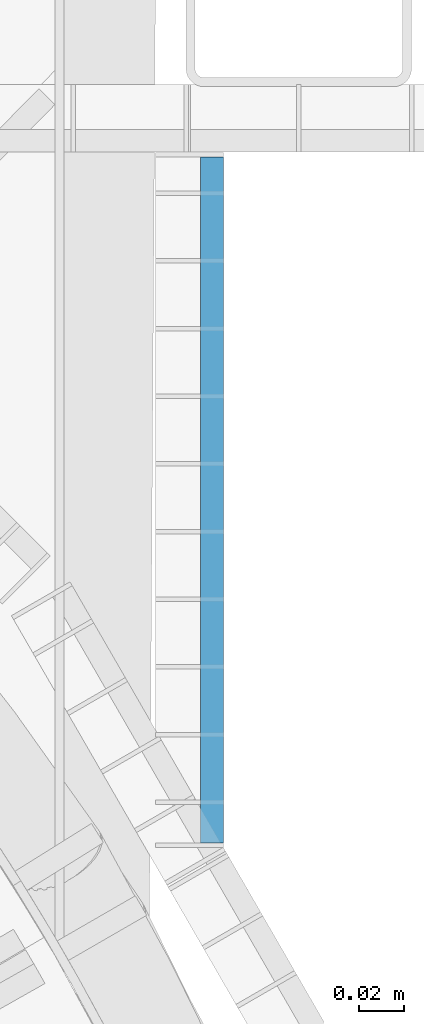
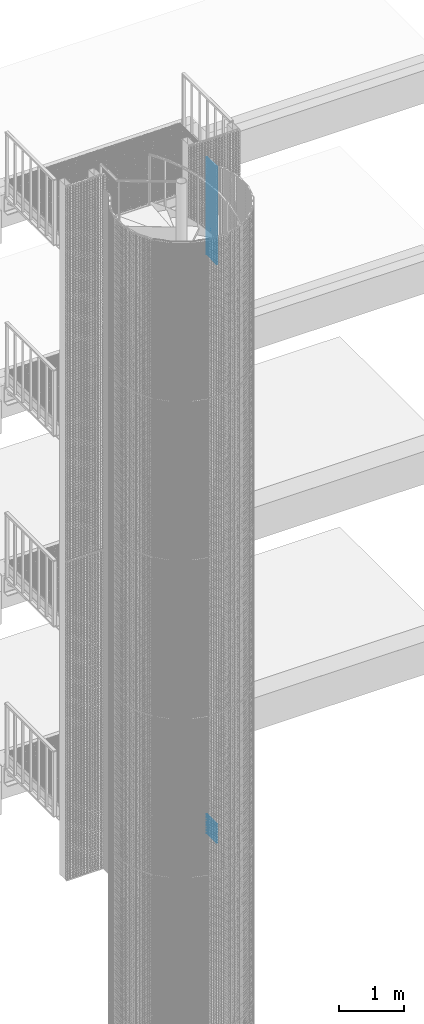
# One storey, part 261 of 1148: 70 beams, 9 elements without a shape of their own.
"""IFC2X3 building model written with IfcOpenShell, lengths in millimetres."""

import ifcopenshell
import ifcopenshell.guid

model = None  # the IFC model being written
_history = None  # IfcOwnerHistory: only IFC2X3 demands one
_inside = {}  # id of a spatial element -> (the spatial element, [elements in it])
_under = {}  # id of a project, library or spatial element -> (it, [spatial elements below it])
_declared = {}  # id of a project -> (the project, [libraries it declares])
_typed = {}  # id of a type object -> (the type object, [elements of that type])
_made_of = {}  # id of a material, layer set ... -> (it, [elements and type objects made of it])


def new_model(schema):
    """Start an empty IFC model of exactly this schema.

    Asked for "IFC4X3", IfcOpenShell would pick the latest addendum, in which some entities
    have other attributes; the version numbers below select the first issue.
    IFC2X3 requires an IfcOwnerHistory on every rooted entity: one is made here for all.
    """
    global model, _history
    if schema == "IFC4X3":
        model = ifcopenshell.file(schema_version=(4, 3, 0, 0))
    else:
        model = ifcopenshell.file(schema=schema)
    _inside.clear()
    _under.clear()
    _declared.clear()
    _typed.clear()
    _made_of.clear()
    _history = None
    if model.schema == "IFC2X3":
        org = make("IfcOrganization", Name="unknown")
        user = make(
            "IfcPersonAndOrganization",
            ThePerson=make("IfcPerson", FamilyName="unknown"),
            TheOrganization=org,
        )
        app = make(
            "IfcApplication",
            ApplicationDeveloper=org,
            Version="unknown",
            ApplicationFullName="unknown",
            ApplicationIdentifier="unknown",
        )
        _history = make(
            "IfcOwnerHistory",
            OwningUser=user,
            OwningApplication=app,
            ChangeAction="ADDED",
            CreationDate=0,
        )
    return model


def make(cls, **values):
    """One entity of the class cls with the attributes given. An attribute that is None is left unset."""
    return model.create_entity(
        cls, **{name: value for name, value in values.items() if value is not None}
    )


def rooted(cls, **values):
    """An entity with a GlobalId (a new one), such as an element, a storey or a relation."""
    return make(cls, GlobalId=ifcopenshell.guid.new(), OwnerHistory=_history, **values)


def si_unit(unit_type, name, prefix=None):
    """IfcSIUnit, for example si_unit("LENGTHUNIT", "METRE", prefix="MILLI")."""
    return make("IfcSIUnit", UnitType=unit_type, Prefix=prefix, Name=name)


def assignment(units):
    """IfcUnitAssignment: the units of a project."""
    return None if units is None else make("IfcUnitAssignment", Units=units)


def point(xyz):
    """IfcCartesianPoint."""
    return None if xyz is None else make("IfcCartesianPoint", Coordinates=xyz)


def direction(xyz):
    """IfcDirection."""
    return None if xyz is None else make("IfcDirection", DirectionRatios=xyz)


def frame(location, z_axis=None, x_axis=None):
    """IfcAxis2Placement3D, a coordinate frame: its origin and axes. An axis left out is left unset."""
    return make(
        "IfcAxis2Placement3D",
        Location=point(location),
        Axis=direction(z_axis),
        RefDirection=direction(x_axis),
    )


def frame_2d(location, x_axis=None):
    """IfcAxis2Placement2D, a coordinate frame in the plane: its origin and x axis."""
    return make(
        "IfcAxis2Placement2D", Location=point(location), RefDirection=direction(x_axis)
    )


def origin_with_axes():
    """The frame at (0, 0, 0) with the z axis (0, 0, 1) and the x axis (1, 0, 0) written out."""
    return frame((0.0, 0.0, 0.0), z_axis=(0.0, 0.0, 1.0), x_axis=(1.0, 0.0, 0.0))


def origin_2d_with_axis():
    """The frame at (0, 0) in the plane with the x axis (1, 0) written out."""
    return frame_2d((0.0, 0.0), x_axis=(1.0, 0.0))


def place(relative_to, where):
    """IfcLocalPlacement: puts the frame where relative to a parent placement (None: the world)."""
    return make(
        "IfcLocalPlacement", PlacementRelTo=relative_to, RelativePlacement=where
    )


def context(
    kind, dimensions, precision=None, world=None, true_north=None, identifier=None
):
    """IfcGeometricRepresentationContext, for example the 3D "Model" context."""
    return make(
        "IfcGeometricRepresentationContext",
        ContextIdentifier=identifier,
        ContextType=kind,
        CoordinateSpaceDimension=dimensions,
        Precision=precision,
        WorldCoordinateSystem=world,
        TrueNorth=true_north,
    )


def subcontext(parent, identifier, kind, view, scale=None):
    """IfcGeometricRepresentationSubContext, for example "Body" below "Model"."""
    return make(
        "IfcGeometricRepresentationSubContext",
        ContextIdentifier=identifier,
        ContextType=kind,
        ParentContext=parent,
        TargetScale=scale,
        TargetView=view,
    )


def project(units=None, contexts=None):
    """IfcProject with its units and contexts."""
    return rooted(
        "IfcProject",
        Name="project",
        RepresentationContexts=contexts,
        UnitsInContext=assignment(units),
    )


def spatial(cls, under=None, at=None, **own):
    """A site, building, storey or space (cls), placed at a placement, below another one or the project."""
    s = rooted(cls, ObjectPlacement=at, **own)
    if under is not None:
        _under.setdefault(under.id(), (under, []))[1].append(s)
    return s


def profile(cls, at=None, kind="AREA", **sizes):
    """A parametric profile (cls). Its sizes go by their IFC names, for example OverallWidth=200.0."""
    return make(cls, ProfileType=kind, Position=at, **sizes)


def rectangle(**sizes):
    """IfcRectangleProfileDef."""
    return profile("IfcRectangleProfileDef", **sizes)


def extrude(swept, where, along, depth):
    """IfcExtrudedAreaSolid: the profile swept, set in the frame where, extruded along a direction by depth."""
    return make(
        "IfcExtrudedAreaSolid",
        SweptArea=swept,
        Position=where,
        ExtrudedDirection=direction(along),
        Depth=depth,
    )


def shape(context_of_items, identifier, shape_type, items):
    """IfcShapeRepresentation: the items that make up one representation, for example the "Body"."""
    return make(
        "IfcShapeRepresentation",
        ContextOfItems=context_of_items,
        RepresentationIdentifier=identifier,
        RepresentationType=shape_type,
        Items=items,
    )


def material(Name=None, Category=None):
    """IfcMaterial."""
    return make("IfcMaterial", Name=Name, Category=Category)


def made_of(thing, what):
    """Note that an element or type object is made of a material, layer set ...; save() writes the relation."""
    if what is not None:
        _made_of.setdefault(what.id(), (what, []))[1].append(thing)
    return thing


def type_object(cls, material=None, **own):
    """A type object (cls), such as IfcWallType, which elements share."""
    return made_of(rooted(cls, **own), material)


def element(
    cls,
    number,
    at=None,
    inside=None,
    cuts=None,
    type_object=None,
    material=None,
    context=None,
    identifier="Body",
    shape_type=None,
    held_by="IfcProductDefinitionShape",
    body=None,
    shapes=None,
    **own,
):
    """One element of the class cls, such as IfcWall. Its Tag is "e" and its number.

    at: its placement. inside: the storey or other place that contains it. cuts: it is an
    opening in that element (IfcRelVoidsElement). A single representation is given by context,
    identifier, shape_type and body (its items); several are given by shapes. held_by: the class
    of the entity that holds the representations. save() writes the other relations.
    """
    e = rooted(cls, Tag="e%d" % number, ObjectPlacement=at, **own)
    if body is not None:
        shapes = [shape(context, identifier, shape_type, body)]
    if shapes is not None:
        e.Representation = make(held_by, Representations=shapes)
    if inside is not None:
        _inside.setdefault(inside.id(), (inside, []))[1].append(e)
    if cuts is not None:
        rooted(
            "IfcRelVoidsElement", RelatingBuildingElement=cuts, RelatedOpeningElement=e
        )
    if type_object is not None:
        _typed.setdefault(type_object.id(), (type_object, []))[1].append(e)
    return made_of(e, material)


def aggregate(whole, parts):
    """IfcRelAggregates: a whole, such as a stair, and the parts it consists of."""
    return rooted("IfcRelAggregates", RelatingObject=whole, RelatedObjects=parts)


def save(model, path):
    """Write the relations noted so far, then the file.

    IfcRelAggregates (storeys below a building ...), IfcRelContainedInSpatialStructure (elements
    in a storey), IfcRelDefinesByType, IfcRelAssociatesMaterial and IfcRelDeclares: one each for
    every whole, place, type object, material and project.
    """
    for whole, parts in _under.values():
        aggregate(whole, parts)
    for where, things in _inside.values():
        rooted(
            "IfcRelContainedInSpatialStructure",
            RelatedElements=things,
            RelatingStructure=where,
        )
    for kind, things in _typed.values():
        rooted("IfcRelDefinesByType", RelatedObjects=things, RelatingType=kind)
    for what, things in _made_of.values():
        rooted("IfcRelAssociatesMaterial", RelatedObjects=things, RelatingMaterial=what)
    for by, libraries in _declared.values():
        rooted("IfcRelDeclares", RelatingContext=by, RelatedDefinitions=libraries)
    model.write(path)


model = new_model("IFC2X3")

# Units and contexts
model_context = context("Model", 3, precision=1e-05, world=origin_with_axes())
body_context = subcontext(model_context, "Body", "Model", "MODEL_VIEW")
ifc_project = project(units=[si_unit("LENGTHUNIT", "METRE", prefix="MILLI"), si_unit("AREAUNIT", "SQUARE_METRE"), si_unit("VOLUMEUNIT", "CUBIC_METRE"), si_unit("MASSUNIT", "GRAM", prefix="KILO"), si_unit("TIMEUNIT", "SECOND"), si_unit("PLANEANGLEUNIT", "RADIAN"), si_unit("SOLIDANGLEUNIT", "STERADIAN"), si_unit("THERMODYNAMICTEMPERATUREUNIT", "DEGREE_CELSIUS"), si_unit("LUMINOUSINTENSITYUNIT", "LUMEN")], contexts=[model_context])

# Site, building, storey
site_placement = place(None, origin_with_axes())
site = spatial("IfcSite", under=ifc_project, at=site_placement, Name="Undefined", CompositionType="ELEMENT")
building_placement = place(site_placement, origin_with_axes())
building = spatial("IfcBuilding", under=site, at=building_placement, Name="Undefined", CompositionType="ELEMENT")
storey_placement = place(building_placement, origin_with_axes())
storey = spatial("IfcBuildingStorey", under=building, at=storey_placement, Name="Undefined", CompositionType="ELEMENT", Elevation=0.0)

# Assembly, beam
assembly_1_placement = place(storey_placement, origin_with_axes())
assembly_1 = element("IfcElementAssembly", 1, at=assembly_1_placement, inside=storey, AssemblyPlace="NOTDEFINED", PredefinedType="NOTDEFINED")
ifc_material = material(Name="STEEL/S235JR")
beam_type = type_object("IfcBeamType", Name="PL2*10", PredefinedType="NOTDEFINED")
beam_1_placement = place(assembly_1_placement, frame((961.586915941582, 564.782669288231, 5550.0), z_axis=(1.0, 0.0, 0.0), x_axis=(0.0, 1.0, 0.0)))
beam_1 = element("IfcBeam", 2, at=beam_1_placement, type_object=beam_type, material=ifc_material, Name="ENTRETOISE", context=body_context, shape_type="SweptSolid", body=[
    extrude(rectangle(XDim=2.0, YDim=10.0, at=origin_2d_with_axis()), frame((303.999999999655, 0.0, 0.0), z_axis=(-1.0, 0.0, 0.0), x_axis=(0.0, -1.0, 0.0)), (0.0, 0.0, 1.0), 304.0),
])
aggregate(assembly_1, [beam_1])

assembly_2_placement = place(storey_placement, origin_with_axes())
assembly_2 = element("IfcElementAssembly", 3, at=assembly_2_placement, inside=storey, AssemblyPlace="NOTDEFINED", PredefinedType="NOTDEFINED")
beam_2_placement = place(assembly_2_placement, frame((961.586915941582, 564.782669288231, 5500.0), z_axis=(1.0, 0.0, 0.0), x_axis=(0.0, 1.0, 0.0)))
beam_2 = element("IfcBeam", 4, at=beam_2_placement, type_object=beam_type, material=ifc_material, Name="ENTRETOISE", context=body_context, shape_type="SweptSolid", body=[
    extrude(rectangle(XDim=2.0, YDim=10.0, at=origin_2d_with_axis()), frame((303.999999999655, 0.0, 0.0), z_axis=(-1.0, 0.0, 0.0), x_axis=(0.0, -1.0, 0.0)), (0.0, 0.0, 1.0), 304.0),
])
aggregate(assembly_2, [beam_2])

assembly_3_placement = place(storey_placement, origin_with_axes())
assembly_3 = element("IfcElementAssembly", 5, at=assembly_3_placement, inside=storey, AssemblyPlace="NOTDEFINED", PredefinedType="NOTDEFINED")
beam_3_placement = place(assembly_3_placement, frame((961.586915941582, 564.782669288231, 5450.0), z_axis=(1.0, 0.0, 0.0), x_axis=(0.0, 1.0, 0.0)))
beam_3 = element("IfcBeam", 6, at=beam_3_placement, type_object=beam_type, material=ifc_material, Name="ENTRETOISE", context=body_context, shape_type="SweptSolid", body=[
    extrude(rectangle(XDim=2.0, YDim=10.0, at=origin_2d_with_axis()), frame((303.999999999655, 0.0, 0.0), z_axis=(-1.0, 0.0, 0.0), x_axis=(0.0, -1.0, 0.0)), (0.0, 0.0, 1.0), 304.0),
])
aggregate(assembly_3, [beam_3])

assembly_4_placement = place(storey_placement, origin_with_axes())
assembly_4 = element("IfcElementAssembly", 7, at=assembly_4_placement, inside=storey, AssemblyPlace="NOTDEFINED", PredefinedType="NOTDEFINED")
beam_4_placement = place(assembly_4_placement, frame((961.586915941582, 564.782669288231, 5400.0), z_axis=(1.0, 0.0, 0.0), x_axis=(0.0, 1.0, 0.0)))
beam_4 = element("IfcBeam", 8, at=beam_4_placement, type_object=beam_type, material=ifc_material, Name="ENTRETOISE", context=body_context, shape_type="SweptSolid", body=[
    extrude(rectangle(XDim=2.0, YDim=10.0, at=origin_2d_with_axis()), frame((303.999999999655, 0.0, 0.0), z_axis=(-1.0, 0.0, 0.0), x_axis=(0.0, -1.0, 0.0)), (0.0, 0.0, 1.0), 304.0),
])
aggregate(assembly_4, [beam_4])

assembly_5_placement = place(storey_placement, origin_with_axes())
assembly_5 = element("IfcElementAssembly", 9, at=assembly_5_placement, inside=storey, AssemblyPlace="NOTDEFINED", PredefinedType="NOTDEFINED")
beam_5_placement = place(assembly_5_placement, frame((961.586915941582, 564.782669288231, 5350.0), z_axis=(1.0, 0.0, 0.0), x_axis=(0.0, 1.0, 0.0)))
beam_5 = element("IfcBeam", 10, at=beam_5_placement, type_object=beam_type, material=ifc_material, Name="ENTRETOISE", context=body_context, shape_type="SweptSolid", body=[
    extrude(rectangle(XDim=2.0, YDim=10.0, at=origin_2d_with_axis()), frame((303.999999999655, 0.0, 0.0), z_axis=(-1.0, 0.0, 0.0), x_axis=(0.0, -1.0, 0.0)), (0.0, 0.0, 1.0), 304.0),
])
aggregate(assembly_5, [beam_5])

assembly_6_placement = place(storey_placement, origin_with_axes())
assembly_6 = element("IfcElementAssembly", 11, at=assembly_6_placement, inside=storey, AssemblyPlace="NOTDEFINED", PredefinedType="NOTDEFINED")
beam_6_placement = place(assembly_6_placement, frame((961.586915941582, 564.782669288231, 5300.0), z_axis=(1.0, 0.0, 0.0), x_axis=(0.0, 1.0, 0.0)))
beam_6 = element("IfcBeam", 12, at=beam_6_placement, type_object=beam_type, material=ifc_material, Name="ENTRETOISE", context=body_context, shape_type="SweptSolid", body=[
    extrude(rectangle(XDim=2.0, YDim=10.0, at=origin_2d_with_axis()), frame((303.999999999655, 0.0, 0.0), z_axis=(-1.0, 0.0, 0.0), x_axis=(0.0, -1.0, 0.0)), (0.0, 0.0, 1.0), 304.0),
])
aggregate(assembly_6, [beam_6])

assembly_7_placement = place(storey_placement, origin_with_axes())
assembly_7 = element("IfcElementAssembly", 13, at=assembly_7_placement, inside=storey, AssemblyPlace="NOTDEFINED", PredefinedType="NOTDEFINED")
beam_7_placement = place(assembly_7_placement, frame((961.586915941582, 564.782669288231, 5250.0), z_axis=(1.0, 0.0, 0.0), x_axis=(0.0, 1.0, 0.0)))
beam_7 = element("IfcBeam", 14, at=beam_7_placement, type_object=beam_type, material=ifc_material, Name="ENTRETOISE", context=body_context, shape_type="SweptSolid", body=[
    extrude(rectangle(XDim=2.0, YDim=10.0, at=origin_2d_with_axis()), frame((303.999999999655, 0.0, 0.0), z_axis=(-1.0, 0.0, 0.0), x_axis=(0.0, -1.0, 0.0)), (0.0, 0.0, 1.0), 304.0),
])
aggregate(assembly_7, [beam_7])

assembly_8_placement = place(storey_placement, origin_with_axes())
assembly_8 = element("IfcElementAssembly", 15, at=assembly_8_placement, inside=storey, AssemblyPlace="NOTDEFINED", PredefinedType="NOTDEFINED")
beam_8_placement = place(assembly_8_placement, frame((961.586915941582, 564.782669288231, 5200.0), z_axis=(1.0, 0.0, 0.0), x_axis=(0.0, 1.0, 0.0)))
beam_8 = element("IfcBeam", 16, at=beam_8_placement, type_object=beam_type, material=ifc_material, Name="ENTRETOISE", context=body_context, shape_type="SweptSolid", body=[
    extrude(rectangle(XDim=2.0, YDim=10.0, at=origin_2d_with_axis()), frame((303.999999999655, 0.0, 0.0), z_axis=(-1.0, 0.0, 0.0), x_axis=(0.0, -1.0, 0.0)), (0.0, 0.0, 1.0), 304.0),
])
aggregate(assembly_8, [beam_8])

# Assembly, beams
assembly_9_placement = place(storey_placement, origin_with_axes())
assembly_9 = element("IfcElementAssembly", 17, at=assembly_9_placement, inside=storey, Name="BORDURE", AssemblyPlace="NOTDEFINED", PredefinedType="NOTDEFINED")
beam_9_placement = place(assembly_9_placement, frame((961.586915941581, 564.78266928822, 17970.0), z_axis=(1.0, 0.0, 0.0), x_axis=(0.0, 1.0, 0.0)))
beam_9 = element("IfcBeam", 18, at=beam_9_placement, type_object=beam_type, material=ifc_material, Name="ENTRETOISE", context=body_context, shape_type="SweptSolid", body=[
    extrude(rectangle(XDim=2.0, YDim=10.0, at=origin_2d_with_axis()), frame((303.999999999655, 0.0, 0.0), z_axis=(-1.0, 0.0, 0.0), x_axis=(0.0, -1.0, 0.0)), (0.0, 0.0, 1.0), 304.0),
])
beam_10_placement = place(assembly_9_placement, frame((961.586915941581, 564.78266928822, 17940.0), z_axis=(1.0, 0.0, 0.0), x_axis=(0.0, 1.0, 0.0)))
beam_10 = element("IfcBeam", 19, at=beam_10_placement, type_object=beam_type, material=ifc_material, Name="ENTRETOISE", context=body_context, shape_type="SweptSolid", body=[
    extrude(rectangle(XDim=2.0, YDim=10.0, at=origin_2d_with_axis()), frame((303.999999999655, 0.0, 0.0), z_axis=(-1.0, 0.0, 0.0), x_axis=(0.0, -1.0, 0.0)), (0.0, 0.0, 1.0), 304.0),
])
beam_11_placement = place(assembly_9_placement, frame((961.586915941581, 564.78266928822, 17910.0), z_axis=(1.0, 0.0, 0.0), x_axis=(0.0, 1.0, 0.0)))
beam_11 = element("IfcBeam", 20, at=beam_11_placement, type_object=beam_type, material=ifc_material, Name="ENTRETOISE", context=body_context, shape_type="SweptSolid", body=[
    extrude(rectangle(XDim=2.0, YDim=10.0, at=origin_2d_with_axis()), frame((303.999999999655, 0.0, 0.0), z_axis=(-1.0, 0.0, 0.0), x_axis=(0.0, -1.0, 0.0)), (0.0, 0.0, 1.0), 304.0),
])
beam_12_placement = place(assembly_9_placement, frame((961.586915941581, 564.782669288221, 17880.0), z_axis=(1.0, 0.0, 0.0), x_axis=(0.0, 1.0, 0.0)))
beam_12 = element("IfcBeam", 21, at=beam_12_placement, type_object=beam_type, material=ifc_material, Name="ENTRETOISE", context=body_context, shape_type="SweptSolid", body=[
    extrude(rectangle(XDim=2.0, YDim=10.0, at=origin_2d_with_axis()), frame((303.999999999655, 0.0, 0.0), z_axis=(-1.0, 0.0, 0.0), x_axis=(0.0, -1.0, 0.0)), (0.0, 0.0, 1.0), 304.0),
])
beam_13_placement = place(assembly_9_placement, frame((961.586915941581, 564.78266928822, 17850.0), z_axis=(1.0, 0.0, 0.0), x_axis=(0.0, 1.0, 0.0)))
beam_13 = element("IfcBeam", 22, at=beam_13_placement, type_object=beam_type, material=ifc_material, Name="ENTRETOISE", context=body_context, shape_type="SweptSolid", body=[
    extrude(rectangle(XDim=2.0, YDim=10.0, at=origin_2d_with_axis()), frame((303.999999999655, 0.0, 0.0), z_axis=(-1.0, 0.0, 0.0), x_axis=(0.0, -1.0, 0.0)), (0.0, 0.0, 1.0), 304.0),
])
beam_14_placement = place(assembly_9_placement, frame((961.586915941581, 564.78266928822, 17820.0), z_axis=(1.0, 0.0, 0.0), x_axis=(0.0, 1.0, 0.0)))
beam_14 = element("IfcBeam", 23, at=beam_14_placement, type_object=beam_type, material=ifc_material, Name="ENTRETOISE", context=body_context, shape_type="SweptSolid", body=[
    extrude(rectangle(XDim=2.0, YDim=10.0, at=origin_2d_with_axis()), frame((303.999999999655, 0.0, 0.0), z_axis=(-1.0, 0.0, 0.0), x_axis=(0.0, -1.0, 0.0)), (0.0, 0.0, 1.0), 304.0),
])
beam_15_placement = place(assembly_9_placement, frame((961.586915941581, 564.782669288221, 17790.0), z_axis=(1.0, 0.0, 0.0), x_axis=(0.0, 1.0, 0.0)))
beam_15 = element("IfcBeam", 24, at=beam_15_placement, type_object=beam_type, material=ifc_material, Name="ENTRETOISE", context=body_context, shape_type="SweptSolid", body=[
    extrude(rectangle(XDim=2.0, YDim=10.0, at=origin_2d_with_axis()), frame((303.999999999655, 0.0, 0.0), z_axis=(-1.0, 0.0, 0.0), x_axis=(0.0, -1.0, 0.0)), (0.0, 0.0, 1.0), 304.0),
])
beam_16_placement = place(assembly_9_placement, frame((961.586915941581, 564.782669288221, 17760.0), z_axis=(1.0, 0.0, 0.0), x_axis=(0.0, 1.0, 0.0)))
beam_16 = element("IfcBeam", 25, at=beam_16_placement, type_object=beam_type, material=ifc_material, Name="ENTRETOISE", context=body_context, shape_type="SweptSolid", body=[
    extrude(rectangle(XDim=2.0, YDim=10.0, at=origin_2d_with_axis()), frame((303.999999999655, 0.0, 0.0), z_axis=(-1.0, 0.0, 0.0), x_axis=(0.0, -1.0, 0.0)), (0.0, 0.0, 1.0), 304.0),
])
beam_17_placement = place(assembly_9_placement, frame((961.586915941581, 564.782669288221, 17730.0), z_axis=(1.0, 0.0, 0.0), x_axis=(0.0, 1.0, 0.0)))
beam_17 = element("IfcBeam", 26, at=beam_17_placement, type_object=beam_type, material=ifc_material, Name="ENTRETOISE", context=body_context, shape_type="SweptSolid", body=[
    extrude(rectangle(XDim=2.0, YDim=10.0, at=origin_2d_with_axis()), frame((303.999999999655, 0.0, 0.0), z_axis=(-1.0, 0.0, 0.0), x_axis=(0.0, -1.0, 0.0)), (0.0, 0.0, 1.0), 304.0),
])
beam_18_placement = place(assembly_9_placement, frame((961.586915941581, 564.782669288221, 17700.0), z_axis=(1.0, 0.0, 0.0), x_axis=(0.0, 1.0, 0.0)))
beam_18 = element("IfcBeam", 27, at=beam_18_placement, type_object=beam_type, material=ifc_material, Name="ENTRETOISE", context=body_context, shape_type="SweptSolid", body=[
    extrude(rectangle(XDim=2.0, YDim=10.0, at=origin_2d_with_axis()), frame((303.999999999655, 0.0, 0.0), z_axis=(-1.0, 0.0, 0.0), x_axis=(0.0, -1.0, 0.0)), (0.0, 0.0, 1.0), 304.0),
])
beam_19_placement = place(assembly_9_placement, frame((961.586915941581, 564.782669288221, 17670.0), z_axis=(1.0, 0.0, 0.0), x_axis=(0.0, 1.0, 0.0)))
beam_19 = element("IfcBeam", 28, at=beam_19_placement, type_object=beam_type, material=ifc_material, Name="ENTRETOISE", context=body_context, shape_type="SweptSolid", body=[
    extrude(rectangle(XDim=2.0, YDim=10.0, at=origin_2d_with_axis()), frame((303.999999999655, 0.0, 0.0), z_axis=(-1.0, 0.0, 0.0), x_axis=(0.0, -1.0, 0.0)), (0.0, 0.0, 1.0), 304.0),
])
beam_20_placement = place(assembly_9_placement, frame((961.586915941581, 564.782669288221, 17640.0), z_axis=(1.0, 0.0, 0.0), x_axis=(0.0, 1.0, 0.0)))
beam_20 = element("IfcBeam", 29, at=beam_20_placement, type_object=beam_type, material=ifc_material, Name="ENTRETOISE", context=body_context, shape_type="SweptSolid", body=[
    extrude(rectangle(XDim=2.0, YDim=10.0, at=origin_2d_with_axis()), frame((303.999999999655, 0.0, 0.0), z_axis=(-1.0, 0.0, 0.0), x_axis=(0.0, -1.0, 0.0)), (0.0, 0.0, 1.0), 304.0),
])
beam_21_placement = place(assembly_9_placement, frame((961.586915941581, 564.782669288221, 17610.0), z_axis=(1.0, 0.0, 0.0), x_axis=(0.0, 1.0, 0.0)))
beam_21 = element("IfcBeam", 30, at=beam_21_placement, type_object=beam_type, material=ifc_material, Name="ENTRETOISE", context=body_context, shape_type="SweptSolid", body=[
    extrude(rectangle(XDim=2.0, YDim=10.0, at=origin_2d_with_axis()), frame((303.999999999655, 0.0, 0.0), z_axis=(-1.0, 0.0, 0.0), x_axis=(0.0, -1.0, 0.0)), (0.0, 0.0, 1.0), 304.0),
])
beam_22_placement = place(assembly_9_placement, frame((961.586915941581, 564.782669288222, 17580.0), z_axis=(1.0, 0.0, 0.0), x_axis=(0.0, 1.0, 0.0)))
beam_22 = element("IfcBeam", 31, at=beam_22_placement, type_object=beam_type, material=ifc_material, Name="ENTRETOISE", context=body_context, shape_type="SweptSolid", body=[
    extrude(rectangle(XDim=2.0, YDim=10.0, at=origin_2d_with_axis()), frame((303.999999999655, 0.0, 0.0), z_axis=(-1.0, 0.0, 0.0), x_axis=(0.0, -1.0, 0.0)), (0.0, 0.0, 1.0), 304.0),
])
beam_23_placement = place(assembly_9_placement, frame((961.586915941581, 564.782669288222, 17550.0), z_axis=(1.0, 0.0, 0.0), x_axis=(0.0, 1.0, 0.0)))
beam_23 = element("IfcBeam", 32, at=beam_23_placement, type_object=beam_type, material=ifc_material, Name="ENTRETOISE", context=body_context, shape_type="SweptSolid", body=[
    extrude(rectangle(XDim=2.0, YDim=10.0, at=origin_2d_with_axis()), frame((303.999999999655, 0.0, 0.0), z_axis=(-1.0, 0.0, 0.0), x_axis=(0.0, -1.0, 0.0)), (0.0, 0.0, 1.0), 304.0),
])
beam_24_placement = place(assembly_9_placement, frame((961.586915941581, 564.782669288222, 17520.0), z_axis=(1.0, 0.0, 0.0), x_axis=(0.0, 1.0, 0.0)))
beam_24 = element("IfcBeam", 33, at=beam_24_placement, type_object=beam_type, material=ifc_material, Name="ENTRETOISE", context=body_context, shape_type="SweptSolid", body=[
    extrude(rectangle(XDim=2.0, YDim=10.0, at=origin_2d_with_axis()), frame((303.999999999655, 0.0, 0.0), z_axis=(-1.0, 0.0, 0.0), x_axis=(0.0, -1.0, 0.0)), (0.0, 0.0, 1.0), 304.0),
])
beam_25_placement = place(assembly_9_placement, frame((961.586915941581, 564.782669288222, 17490.0), z_axis=(1.0, 0.0, 0.0), x_axis=(0.0, 1.0, 0.0)))
beam_25 = element("IfcBeam", 34, at=beam_25_placement, type_object=beam_type, material=ifc_material, Name="ENTRETOISE", context=body_context, shape_type="SweptSolid", body=[
    extrude(rectangle(XDim=2.0, YDim=10.0, at=origin_2d_with_axis()), frame((303.999999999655, 0.0, 0.0), z_axis=(-1.0, 0.0, 0.0), x_axis=(0.0, -1.0, 0.0)), (0.0, 0.0, 1.0), 304.0),
])
beam_26_placement = place(assembly_9_placement, frame((961.586915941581, 564.782669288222, 17460.0), z_axis=(1.0, 0.0, 0.0), x_axis=(0.0, 1.0, 0.0)))
beam_26 = element("IfcBeam", 35, at=beam_26_placement, type_object=beam_type, material=ifc_material, Name="ENTRETOISE", context=body_context, shape_type="SweptSolid", body=[
    extrude(rectangle(XDim=2.0, YDim=10.0, at=origin_2d_with_axis()), frame((303.999999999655, 0.0, 0.0), z_axis=(-1.0, 0.0, 0.0), x_axis=(0.0, -1.0, 0.0)), (0.0, 0.0, 1.0), 304.0),
])
beam_27_placement = place(assembly_9_placement, frame((961.586915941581, 564.782669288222, 17430.0), z_axis=(1.0, 0.0, 0.0), x_axis=(0.0, 1.0, 0.0)))
beam_27 = element("IfcBeam", 36, at=beam_27_placement, type_object=beam_type, material=ifc_material, Name="ENTRETOISE", context=body_context, shape_type="SweptSolid", body=[
    extrude(rectangle(XDim=2.0, YDim=10.0, at=origin_2d_with_axis()), frame((303.999999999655, 0.0, 0.0), z_axis=(-1.0, 0.0, 0.0), x_axis=(0.0, -1.0, 0.0)), (0.0, 0.0, 1.0), 304.0),
])
beam_28_placement = place(assembly_9_placement, frame((961.586915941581, 564.782669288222, 17400.0), z_axis=(1.0, 0.0, 0.0), x_axis=(0.0, 1.0, 0.0)))
beam_28 = element("IfcBeam", 37, at=beam_28_placement, type_object=beam_type, material=ifc_material, Name="ENTRETOISE", context=body_context, shape_type="SweptSolid", body=[
    extrude(rectangle(XDim=2.0, YDim=10.0, at=origin_2d_with_axis()), frame((303.999999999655, 0.0, 0.0), z_axis=(-1.0, 0.0, 0.0), x_axis=(0.0, -1.0, 0.0)), (0.0, 0.0, 1.0), 304.0),
])
beam_29_placement = place(assembly_9_placement, frame((961.586915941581, 564.782669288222, 17370.0), z_axis=(1.0, 0.0, 0.0), x_axis=(0.0, 1.0, 0.0)))
beam_29 = element("IfcBeam", 38, at=beam_29_placement, type_object=beam_type, material=ifc_material, Name="ENTRETOISE", context=body_context, shape_type="SweptSolid", body=[
    extrude(rectangle(XDim=2.0, YDim=10.0, at=origin_2d_with_axis()), frame((303.999999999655, 0.0, 0.0), z_axis=(-1.0, 0.0, 0.0), x_axis=(0.0, -1.0, 0.0)), (0.0, 0.0, 1.0), 304.0),
])
beam_30_placement = place(assembly_9_placement, frame((961.586915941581, 564.782669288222, 17340.0), z_axis=(1.0, 0.0, 0.0), x_axis=(0.0, 1.0, 0.0)))
beam_30 = element("IfcBeam", 39, at=beam_30_placement, type_object=beam_type, material=ifc_material, Name="ENTRETOISE", context=body_context, shape_type="SweptSolid", body=[
    extrude(rectangle(XDim=2.0, YDim=10.0, at=origin_2d_with_axis()), frame((303.999999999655, 0.0, 0.0), z_axis=(-1.0, 0.0, 0.0), x_axis=(0.0, -1.0, 0.0)), (0.0, 0.0, 1.0), 304.0),
])
beam_31_placement = place(assembly_9_placement, frame((961.586915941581, 564.782669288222, 17310.0), z_axis=(1.0, 0.0, 0.0), x_axis=(0.0, 1.0, 0.0)))
beam_31 = element("IfcBeam", 40, at=beam_31_placement, type_object=beam_type, material=ifc_material, Name="ENTRETOISE", context=body_context, shape_type="SweptSolid", body=[
    extrude(rectangle(XDim=2.0, YDim=10.0, at=origin_2d_with_axis()), frame((303.999999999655, 0.0, 0.0), z_axis=(-1.0, 0.0, 0.0), x_axis=(0.0, -1.0, 0.0)), (0.0, 0.0, 1.0), 304.0),
])
beam_32_placement = place(assembly_9_placement, frame((961.586915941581, 564.782669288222, 17280.0), z_axis=(1.0, 0.0, 0.0), x_axis=(0.0, 1.0, 0.0)))
beam_32 = element("IfcBeam", 41, at=beam_32_placement, type_object=beam_type, material=ifc_material, Name="ENTRETOISE", context=body_context, shape_type="SweptSolid", body=[
    extrude(rectangle(XDim=2.0, YDim=10.0, at=origin_2d_with_axis()), frame((303.999999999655, 0.0, 0.0), z_axis=(-1.0, 0.0, 0.0), x_axis=(0.0, -1.0, 0.0)), (0.0, 0.0, 1.0), 304.0),
])
beam_33_placement = place(assembly_9_placement, frame((961.586915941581, 564.782669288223, 17250.0), z_axis=(1.0, 0.0, 0.0), x_axis=(0.0, 1.0, 0.0)))
beam_33 = element("IfcBeam", 42, at=beam_33_placement, type_object=beam_type, material=ifc_material, Name="ENTRETOISE", context=body_context, shape_type="SweptSolid", body=[
    extrude(rectangle(XDim=2.0, YDim=10.0, at=origin_2d_with_axis()), frame((303.999999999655, 0.0, 0.0), z_axis=(-1.0, 0.0, 0.0), x_axis=(0.0, -1.0, 0.0)), (0.0, 0.0, 1.0), 304.0),
])
beam_34_placement = place(assembly_9_placement, frame((961.586915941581, 564.782669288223, 17220.0), z_axis=(1.0, 0.0, 0.0), x_axis=(0.0, 1.0, 0.0)))
beam_34 = element("IfcBeam", 43, at=beam_34_placement, type_object=beam_type, material=ifc_material, Name="ENTRETOISE", context=body_context, shape_type="SweptSolid", body=[
    extrude(rectangle(XDim=2.0, YDim=10.0, at=origin_2d_with_axis()), frame((303.999999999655, 0.0, 0.0), z_axis=(-1.0, 0.0, 0.0), x_axis=(0.0, -1.0, 0.0)), (0.0, 0.0, 1.0), 304.0),
])
beam_35_placement = place(assembly_9_placement, frame((961.586915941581, 564.782669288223, 17190.0), z_axis=(1.0, 0.0, 0.0), x_axis=(0.0, 1.0, 0.0)))
beam_35 = element("IfcBeam", 44, at=beam_35_placement, type_object=beam_type, material=ifc_material, Name="ENTRETOISE", context=body_context, shape_type="SweptSolid", body=[
    extrude(rectangle(XDim=2.0, YDim=10.0, at=origin_2d_with_axis()), frame((303.999999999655, 0.0, 0.0), z_axis=(-1.0, 0.0, 0.0), x_axis=(0.0, -1.0, 0.0)), (0.0, 0.0, 1.0), 304.0),
])
beam_36_placement = place(assembly_9_placement, frame((961.586915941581, 564.782669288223, 17160.0), z_axis=(1.0, 0.0, 0.0), x_axis=(0.0, 1.0, 0.0)))
beam_36 = element("IfcBeam", 45, at=beam_36_placement, type_object=beam_type, material=ifc_material, Name="ENTRETOISE", context=body_context, shape_type="SweptSolid", body=[
    extrude(rectangle(XDim=2.0, YDim=10.0, at=origin_2d_with_axis()), frame((303.999999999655, 0.0, 0.0), z_axis=(-1.0, 0.0, 0.0), x_axis=(0.0, -1.0, 0.0)), (0.0, 0.0, 1.0), 304.0),
])
beam_37_placement = place(assembly_9_placement, frame((961.586915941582, 564.782669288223, 17130.0), z_axis=(1.0, 0.0, 0.0), x_axis=(0.0, 1.0, 0.0)))
beam_37 = element("IfcBeam", 46, at=beam_37_placement, type_object=beam_type, material=ifc_material, Name="ENTRETOISE", context=body_context, shape_type="SweptSolid", body=[
    extrude(rectangle(XDim=2.0, YDim=10.0, at=origin_2d_with_axis()), frame((303.999999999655, 0.0, 0.0), z_axis=(-1.0, 0.0, 0.0), x_axis=(0.0, -1.0, 0.0)), (0.0, 0.0, 1.0), 304.0),
])
beam_38_placement = place(assembly_9_placement, frame((961.586915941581, 564.782669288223, 17100.0), z_axis=(1.0, 0.0, 0.0), x_axis=(0.0, 1.0, 0.0)))
beam_38 = element("IfcBeam", 47, at=beam_38_placement, type_object=beam_type, material=ifc_material, Name="ENTRETOISE", context=body_context, shape_type="SweptSolid", body=[
    extrude(rectangle(XDim=2.0, YDim=10.0, at=origin_2d_with_axis()), frame((303.999999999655, 0.0, 0.0), z_axis=(-1.0, 0.0, 0.0), x_axis=(0.0, -1.0, 0.0)), (0.0, 0.0, 1.0), 304.0),
])
beam_39_placement = place(assembly_9_placement, frame((961.586915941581, 564.782669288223, 17070.0), z_axis=(1.0, 0.0, 0.0), x_axis=(0.0, 1.0, 0.0)))
beam_39 = element("IfcBeam", 48, at=beam_39_placement, type_object=beam_type, material=ifc_material, Name="ENTRETOISE", context=body_context, shape_type="SweptSolid", body=[
    extrude(rectangle(XDim=2.0, YDim=10.0, at=origin_2d_with_axis()), frame((303.999999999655, 0.0, 0.0), z_axis=(-1.0, 0.0, 0.0), x_axis=(0.0, -1.0, 0.0)), (0.0, 0.0, 1.0), 304.0),
])
beam_40_placement = place(assembly_9_placement, frame((961.586915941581, 564.782669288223, 17040.0), z_axis=(1.0, 0.0, 0.0), x_axis=(0.0, 1.0, 0.0)))
beam_40 = element("IfcBeam", 49, at=beam_40_placement, type_object=beam_type, material=ifc_material, Name="ENTRETOISE", context=body_context, shape_type="SweptSolid", body=[
    extrude(rectangle(XDim=2.0, YDim=10.0, at=origin_2d_with_axis()), frame((303.999999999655, 0.0, 0.0), z_axis=(-1.0, 0.0, 0.0), x_axis=(0.0, -1.0, 0.0)), (0.0, 0.0, 1.0), 304.0),
])
beam_41_placement = place(assembly_9_placement, frame((961.586915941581, 564.782669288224, 17010.0), z_axis=(1.0, 0.0, 0.0), x_axis=(0.0, 1.0, 0.0)))
beam_41 = element("IfcBeam", 50, at=beam_41_placement, type_object=beam_type, material=ifc_material, Name="ENTRETOISE", context=body_context, shape_type="SweptSolid", body=[
    extrude(rectangle(XDim=2.0, YDim=10.0, at=origin_2d_with_axis()), frame((303.999999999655, 0.0, 0.0), z_axis=(-1.0, 0.0, 0.0), x_axis=(0.0, -1.0, 0.0)), (0.0, 0.0, 1.0), 304.0),
])
beam_42_placement = place(assembly_9_placement, frame((961.586915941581, 564.782669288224, 16980.0), z_axis=(1.0, 0.0, 0.0), x_axis=(0.0, 1.0, 0.0)))
beam_42 = element("IfcBeam", 51, at=beam_42_placement, type_object=beam_type, material=ifc_material, Name="ENTRETOISE", context=body_context, shape_type="SweptSolid", body=[
    extrude(rectangle(XDim=2.0, YDim=10.0, at=origin_2d_with_axis()), frame((303.999999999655, 0.0, 0.0), z_axis=(-1.0, 0.0, 0.0), x_axis=(0.0, -1.0, 0.0)), (0.0, 0.0, 1.0), 304.0),
])
beam_43_placement = place(assembly_9_placement, frame((961.586915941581, 564.782669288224, 16950.0), z_axis=(1.0, 0.0, 0.0), x_axis=(0.0, 1.0, 0.0)))
beam_43 = element("IfcBeam", 52, at=beam_43_placement, type_object=beam_type, material=ifc_material, Name="ENTRETOISE", context=body_context, shape_type="SweptSolid", body=[
    extrude(rectangle(XDim=2.0, YDim=10.0, at=origin_2d_with_axis()), frame((303.999999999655, 0.0, 0.0), z_axis=(-1.0, 0.0, 0.0), x_axis=(0.0, -1.0, 0.0)), (0.0, 0.0, 1.0), 304.0),
])
beam_44_placement = place(assembly_9_placement, frame((961.586915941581, 564.782669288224, 16920.0), z_axis=(1.0, 0.0, 0.0), x_axis=(0.0, 1.0, 0.0)))
beam_44 = element("IfcBeam", 53, at=beam_44_placement, type_object=beam_type, material=ifc_material, Name="ENTRETOISE", context=body_context, shape_type="SweptSolid", body=[
    extrude(rectangle(XDim=2.0, YDim=10.0, at=origin_2d_with_axis()), frame((303.999999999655, 0.0, 0.0), z_axis=(-1.0, 0.0, 0.0), x_axis=(0.0, -1.0, 0.0)), (0.0, 0.0, 1.0), 304.0),
])
beam_45_placement = place(assembly_9_placement, frame((961.586915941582, 564.782669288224, 16890.0), z_axis=(1.0, 0.0, 0.0), x_axis=(0.0, 1.0, 0.0)))
beam_45 = element("IfcBeam", 54, at=beam_45_placement, type_object=beam_type, material=ifc_material, Name="ENTRETOISE", context=body_context, shape_type="SweptSolid", body=[
    extrude(rectangle(XDim=2.0, YDim=10.0, at=origin_2d_with_axis()), frame((303.999999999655, 0.0, 0.0), z_axis=(-1.0, 0.0, 0.0), x_axis=(0.0, -1.0, 0.0)), (0.0, 0.0, 1.0), 304.0),
])
beam_46_placement = place(assembly_9_placement, frame((961.586915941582, 564.782669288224, 16860.0), z_axis=(1.0, 0.0, 0.0), x_axis=(0.0, 1.0, 0.0)))
beam_46 = element("IfcBeam", 55, at=beam_46_placement, type_object=beam_type, material=ifc_material, Name="ENTRETOISE", context=body_context, shape_type="SweptSolid", body=[
    extrude(rectangle(XDim=2.0, YDim=10.0, at=origin_2d_with_axis()), frame((303.999999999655, 0.0, 0.0), z_axis=(-1.0, 0.0, 0.0), x_axis=(0.0, -1.0, 0.0)), (0.0, 0.0, 1.0), 304.0),
])
beam_47_placement = place(assembly_9_placement, frame((961.586915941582, 564.782669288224, 16830.0), z_axis=(1.0, 0.0, 0.0), x_axis=(0.0, 1.0, 0.0)))
beam_47 = element("IfcBeam", 56, at=beam_47_placement, type_object=beam_type, material=ifc_material, Name="ENTRETOISE", context=body_context, shape_type="SweptSolid", body=[
    extrude(rectangle(XDim=2.0, YDim=10.0, at=origin_2d_with_axis()), frame((303.999999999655, 0.0, 0.0), z_axis=(-1.0, 0.0, 0.0), x_axis=(0.0, -1.0, 0.0)), (0.0, 0.0, 1.0), 304.0),
])
beam_48_placement = place(assembly_9_placement, frame((961.586915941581, 564.782669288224, 16800.0), z_axis=(1.0, 0.0, 0.0), x_axis=(0.0, 1.0, 0.0)))
beam_48 = element("IfcBeam", 57, at=beam_48_placement, type_object=beam_type, material=ifc_material, Name="ENTRETOISE", context=body_context, shape_type="SweptSolid", body=[
    extrude(rectangle(XDim=2.0, YDim=10.0, at=origin_2d_with_axis()), frame((303.999999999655, 0.0, 0.0), z_axis=(-1.0, 0.0, 0.0), x_axis=(0.0, -1.0, 0.0)), (0.0, 0.0, 1.0), 304.0),
])
beam_49_placement = place(assembly_9_placement, frame((961.586915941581, 564.782669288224, 16770.0), z_axis=(1.0, 0.0, 0.0), x_axis=(0.0, 1.0, 0.0)))
beam_49 = element("IfcBeam", 58, at=beam_49_placement, type_object=beam_type, material=ifc_material, Name="ENTRETOISE", context=body_context, shape_type="SweptSolid", body=[
    extrude(rectangle(XDim=2.0, YDim=10.0, at=origin_2d_with_axis()), frame((303.999999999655, 0.0, 0.0), z_axis=(-1.0, 0.0, 0.0), x_axis=(0.0, -1.0, 0.0)), (0.0, 0.0, 1.0), 304.0),
])
beam_50_placement = place(assembly_9_placement, frame((961.586915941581, 564.782669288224, 16740.0), z_axis=(1.0, 0.0, 0.0), x_axis=(0.0, 1.0, 0.0)))
beam_50 = element("IfcBeam", 59, at=beam_50_placement, type_object=beam_type, material=ifc_material, Name="ENTRETOISE", context=body_context, shape_type="SweptSolid", body=[
    extrude(rectangle(XDim=2.0, YDim=10.0, at=origin_2d_with_axis()), frame((303.999999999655, 0.0, 0.0), z_axis=(-1.0, 0.0, 0.0), x_axis=(0.0, -1.0, 0.0)), (0.0, 0.0, 1.0), 304.0),
])
beam_51_placement = place(assembly_9_placement, frame((961.586915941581, 564.782669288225, 16710.0), z_axis=(1.0, 0.0, 0.0), x_axis=(0.0, 1.0, 0.0)))
beam_51 = element("IfcBeam", 60, at=beam_51_placement, type_object=beam_type, material=ifc_material, Name="ENTRETOISE", context=body_context, shape_type="SweptSolid", body=[
    extrude(rectangle(XDim=2.0, YDim=10.0, at=origin_2d_with_axis()), frame((303.999999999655, 0.0, 0.0), z_axis=(-1.0, 0.0, 0.0), x_axis=(0.0, -1.0, 0.0)), (0.0, 0.0, 1.0), 304.0),
])
beam_52_placement = place(assembly_9_placement, frame((961.586915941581, 564.782669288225, 16680.0), z_axis=(1.0, 0.0, 0.0), x_axis=(0.0, 1.0, 0.0)))
beam_52 = element("IfcBeam", 61, at=beam_52_placement, type_object=beam_type, material=ifc_material, Name="ENTRETOISE", context=body_context, shape_type="SweptSolid", body=[
    extrude(rectangle(XDim=2.0, YDim=10.0, at=origin_2d_with_axis()), frame((303.999999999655, 0.0, 0.0), z_axis=(-1.0, 0.0, 0.0), x_axis=(0.0, -1.0, 0.0)), (0.0, 0.0, 1.0), 304.0),
])
beam_53_placement = place(assembly_9_placement, frame((961.586915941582, 564.782669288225, 16650.0), z_axis=(1.0, 0.0, 0.0), x_axis=(0.0, 1.0, 0.0)))
beam_53 = element("IfcBeam", 62, at=beam_53_placement, type_object=beam_type, material=ifc_material, Name="ENTRETOISE", context=body_context, shape_type="SweptSolid", body=[
    extrude(rectangle(XDim=2.0, YDim=10.0, at=origin_2d_with_axis()), frame((303.999999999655, 0.0, 0.0), z_axis=(-1.0, 0.0, 0.0), x_axis=(0.0, -1.0, 0.0)), (0.0, 0.0, 1.0), 304.0),
])
beam_54_placement = place(assembly_9_placement, frame((961.586915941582, 564.782669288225, 16620.0), z_axis=(1.0, 0.0, 0.0), x_axis=(0.0, 1.0, 0.0)))
beam_54 = element("IfcBeam", 63, at=beam_54_placement, type_object=beam_type, material=ifc_material, Name="ENTRETOISE", context=body_context, shape_type="SweptSolid", body=[
    extrude(rectangle(XDim=2.0, YDim=10.0, at=origin_2d_with_axis()), frame((303.999999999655, 0.0, 0.0), z_axis=(-1.0, 0.0, 0.0), x_axis=(0.0, -1.0, 0.0)), (0.0, 0.0, 1.0), 304.0),
])
beam_55_placement = place(assembly_9_placement, frame((961.586915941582, 564.782669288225, 16590.0), z_axis=(1.0, 0.0, 0.0), x_axis=(0.0, 1.0, 0.0)))
beam_55 = element("IfcBeam", 64, at=beam_55_placement, type_object=beam_type, material=ifc_material, Name="ENTRETOISE", context=body_context, shape_type="SweptSolid", body=[
    extrude(rectangle(XDim=2.0, YDim=10.0, at=origin_2d_with_axis()), frame((303.999999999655, 0.0, 0.0), z_axis=(-1.0, 0.0, 0.0), x_axis=(0.0, -1.0, 0.0)), (0.0, 0.0, 1.0), 304.0),
])
beam_56_placement = place(assembly_9_placement, frame((961.586915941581, 564.782669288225, 16560.0), z_axis=(1.0, 0.0, 0.0), x_axis=(0.0, 1.0, 0.0)))
beam_56 = element("IfcBeam", 65, at=beam_56_placement, type_object=beam_type, material=ifc_material, Name="ENTRETOISE", context=body_context, shape_type="SweptSolid", body=[
    extrude(rectangle(XDim=2.0, YDim=10.0, at=origin_2d_with_axis()), frame((303.999999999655, 0.0, 0.0), z_axis=(-1.0, 0.0, 0.0), x_axis=(0.0, -1.0, 0.0)), (0.0, 0.0, 1.0), 304.0),
])
beam_57_placement = place(assembly_9_placement, frame((961.586915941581, 564.782669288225, 16530.0), z_axis=(1.0, 0.0, 0.0), x_axis=(0.0, 1.0, 0.0)))
beam_57 = element("IfcBeam", 66, at=beam_57_placement, type_object=beam_type, material=ifc_material, Name="ENTRETOISE", context=body_context, shape_type="SweptSolid", body=[
    extrude(rectangle(XDim=2.0, YDim=10.0, at=origin_2d_with_axis()), frame((303.999999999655, 0.0, 0.0), z_axis=(-1.0, 0.0, 0.0), x_axis=(0.0, -1.0, 0.0)), (0.0, 0.0, 1.0), 304.0),
])
beam_58_placement = place(assembly_9_placement, frame((961.586915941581, 564.782669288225, 16500.0), z_axis=(1.0, 0.0, 0.0), x_axis=(0.0, 1.0, 0.0)))
beam_58 = element("IfcBeam", 67, at=beam_58_placement, type_object=beam_type, material=ifc_material, Name="ENTRETOISE", context=body_context, shape_type="SweptSolid", body=[
    extrude(rectangle(XDim=2.0, YDim=10.0, at=origin_2d_with_axis()), frame((303.999999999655, 0.0, 0.0), z_axis=(-1.0, 0.0, 0.0), x_axis=(0.0, -1.0, 0.0)), (0.0, 0.0, 1.0), 304.0),
])
beam_59_placement = place(assembly_9_placement, frame((961.586915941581, 564.782669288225, 16470.0), z_axis=(1.0, 0.0, 0.0), x_axis=(0.0, 1.0, 0.0)))
beam_59 = element("IfcBeam", 68, at=beam_59_placement, type_object=beam_type, material=ifc_material, Name="ENTRETOISE", context=body_context, shape_type="SweptSolid", body=[
    extrude(rectangle(XDim=2.0, YDim=10.0, at=origin_2d_with_axis()), frame((303.999999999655, 0.0, 0.0), z_axis=(-1.0, 0.0, 0.0), x_axis=(0.0, -1.0, 0.0)), (0.0, 0.0, 1.0), 304.0),
])
beam_60_placement = place(assembly_9_placement, frame((961.586915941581, 564.782669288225, 16440.0), z_axis=(1.0, 0.0, 0.0), x_axis=(0.0, 1.0, 0.0)))
beam_60 = element("IfcBeam", 69, at=beam_60_placement, type_object=beam_type, material=ifc_material, Name="ENTRETOISE", context=body_context, shape_type="SweptSolid", body=[
    extrude(rectangle(XDim=2.0, YDim=10.0, at=origin_2d_with_axis()), frame((303.999999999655, 0.0, 0.0), z_axis=(-1.0, 0.0, 0.0), x_axis=(0.0, -1.0, 0.0)), (0.0, 0.0, 1.0), 304.0),
])
beam_61_placement = place(assembly_9_placement, frame((961.586915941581, 564.782669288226, 16410.0), z_axis=(1.0, 0.0, 0.0), x_axis=(0.0, 1.0, 0.0)))
beam_61 = element("IfcBeam", 70, at=beam_61_placement, type_object=beam_type, material=ifc_material, Name="ENTRETOISE", context=body_context, shape_type="SweptSolid", body=[
    extrude(rectangle(XDim=2.0, YDim=10.0, at=origin_2d_with_axis()), frame((303.999999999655, 0.0, 0.0), z_axis=(-1.0, 0.0, 0.0), x_axis=(0.0, -1.0, 0.0)), (0.0, 0.0, 1.0), 304.0),
])
beam_62_placement = place(assembly_9_placement, frame((961.586915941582, 564.782669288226, 16380.0), z_axis=(1.0, 0.0, 0.0), x_axis=(0.0, 1.0, 0.0)))
beam_62 = element("IfcBeam", 71, at=beam_62_placement, type_object=beam_type, material=ifc_material, Name="ENTRETOISE", context=body_context, shape_type="SweptSolid", body=[
    extrude(rectangle(XDim=2.0, YDim=10.0, at=origin_2d_with_axis()), frame((303.999999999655, 0.0, 0.0), z_axis=(-1.0, 0.0, 0.0), x_axis=(0.0, -1.0, 0.0)), (0.0, 0.0, 1.0), 304.0),
])
beam_63_placement = place(assembly_9_placement, frame((961.586915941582, 564.782669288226, 16350.0), z_axis=(1.0, 0.0, 0.0), x_axis=(0.0, 1.0, 0.0)))
beam_63 = element("IfcBeam", 72, at=beam_63_placement, type_object=beam_type, material=ifc_material, Name="ENTRETOISE", context=body_context, shape_type="SweptSolid", body=[
    extrude(rectangle(XDim=2.0, YDim=10.0, at=origin_2d_with_axis()), frame((303.999999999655, 0.0, 0.0), z_axis=(-1.0, 0.0, 0.0), x_axis=(0.0, -1.0, 0.0)), (0.0, 0.0, 1.0), 304.0),
])
beam_64_placement = place(assembly_9_placement, frame((961.586915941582, 564.782669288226, 16320.0), z_axis=(1.0, 0.0, 0.0), x_axis=(0.0, 1.0, 0.0)))
beam_64 = element("IfcBeam", 73, at=beam_64_placement, type_object=beam_type, material=ifc_material, Name="ENTRETOISE", context=body_context, shape_type="SweptSolid", body=[
    extrude(rectangle(XDim=2.0, YDim=10.0, at=origin_2d_with_axis()), frame((303.999999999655, 0.0, 0.0), z_axis=(-1.0, 0.0, 0.0), x_axis=(0.0, -1.0, 0.0)), (0.0, 0.0, 1.0), 304.0),
])
beam_65_placement = place(assembly_9_placement, frame((961.586915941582, 564.782669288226, 16290.0), z_axis=(1.0, 0.0, 0.0), x_axis=(0.0, 1.0, 0.0)))
beam_65 = element("IfcBeam", 74, at=beam_65_placement, type_object=beam_type, material=ifc_material, Name="ENTRETOISE", context=body_context, shape_type="SweptSolid", body=[
    extrude(rectangle(XDim=2.0, YDim=10.0, at=origin_2d_with_axis()), frame((303.999999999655, 0.0, 0.0), z_axis=(-1.0, 0.0, 0.0), x_axis=(0.0, -1.0, 0.0)), (0.0, 0.0, 1.0), 304.0),
])
beam_66_placement = place(assembly_9_placement, frame((961.586915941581, 564.782669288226, 16260.0), z_axis=(1.0, 0.0, 0.0), x_axis=(0.0, 1.0, 0.0)))
beam_66 = element("IfcBeam", 75, at=beam_66_placement, type_object=beam_type, material=ifc_material, Name="ENTRETOISE", context=body_context, shape_type="SweptSolid", body=[
    extrude(rectangle(XDim=2.0, YDim=10.0, at=origin_2d_with_axis()), frame((303.999999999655, 0.0, 0.0), z_axis=(-1.0, 0.0, 0.0), x_axis=(0.0, -1.0, 0.0)), (0.0, 0.0, 1.0), 304.0),
])
beam_67_placement = place(assembly_9_placement, frame((961.586915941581, 564.782669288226, 16230.0), z_axis=(1.0, 0.0, 0.0), x_axis=(0.0, 1.0, 0.0)))
beam_67 = element("IfcBeam", 76, at=beam_67_placement, type_object=beam_type, material=ifc_material, Name="ENTRETOISE", context=body_context, shape_type="SweptSolid", body=[
    extrude(rectangle(XDim=2.0, YDim=10.0, at=origin_2d_with_axis()), frame((303.999999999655, 0.0, 0.0), z_axis=(-1.0, 0.0, 0.0), x_axis=(0.0, -1.0, 0.0)), (0.0, 0.0, 1.0), 304.0),
])
beam_68_placement = place(assembly_9_placement, frame((961.586915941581, 564.782669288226, 16200.0), z_axis=(1.0, 0.0, 0.0), x_axis=(0.0, 1.0, 0.0)))
beam_68 = element("IfcBeam", 77, at=beam_68_placement, type_object=beam_type, material=ifc_material, Name="ENTRETOISE", context=body_context, shape_type="SweptSolid", body=[
    extrude(rectangle(XDim=2.0, YDim=10.0, at=origin_2d_with_axis()), frame((303.999999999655, 0.0, 0.0), z_axis=(-1.0, 0.0, 0.0), x_axis=(0.0, -1.0, 0.0)), (0.0, 0.0, 1.0), 304.0),
])
beam_69_placement = place(assembly_9_placement, frame((961.586915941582, 564.782669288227, 16170.0), z_axis=(1.0, 0.0, 0.0), x_axis=(0.0, 1.0, 0.0)))
beam_69 = element("IfcBeam", 78, at=beam_69_placement, type_object=beam_type, material=ifc_material, Name="ENTRETOISE", context=body_context, shape_type="SweptSolid", body=[
    extrude(rectangle(XDim=2.0, YDim=10.0, at=origin_2d_with_axis()), frame((303.999999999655, 0.0, 0.0), z_axis=(-1.0, 0.0, 0.0), x_axis=(0.0, -1.0, 0.0)), (0.0, 0.0, 1.0), 304.0),
])
beam_70_placement = place(assembly_9_placement, frame((961.586915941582, 564.782669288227, 16140.0), z_axis=(1.0, 0.0, 0.0), x_axis=(0.0, 1.0, 0.0)))
beam_70 = element("IfcBeam", 79, at=beam_70_placement, type_object=beam_type, material=ifc_material, Name="ENTRETOISE", context=body_context, shape_type="SweptSolid", body=[
    extrude(rectangle(XDim=2.0, YDim=10.0, at=origin_2d_with_axis()), frame((303.999999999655, 0.0, 0.0), z_axis=(-1.0, 0.0, 0.0), x_axis=(0.0, -1.0, 0.0)), (0.0, 0.0, 1.0), 304.0),
])
aggregate(assembly_9, [beam_9, beam_10, beam_11, beam_12, beam_13, beam_14, beam_15, beam_16, beam_17, beam_18, beam_19, beam_20, beam_21, beam_22, beam_23, beam_24, beam_25, beam_26, beam_27, beam_28, beam_29, beam_30, beam_31, beam_32, beam_33, beam_34, beam_35, beam_36, beam_37, beam_38, beam_39, beam_40, beam_41, beam_42, beam_43, beam_44, beam_45, beam_46, beam_47, beam_48, beam_49, beam_50, beam_51, beam_52, beam_53, beam_54, beam_55, beam_56, beam_57, beam_58, beam_59, beam_60, beam_61, beam_62, beam_63, beam_64, beam_65, beam_66, beam_67, beam_68, beam_69, beam_70])

save(model, "model.ifc")
